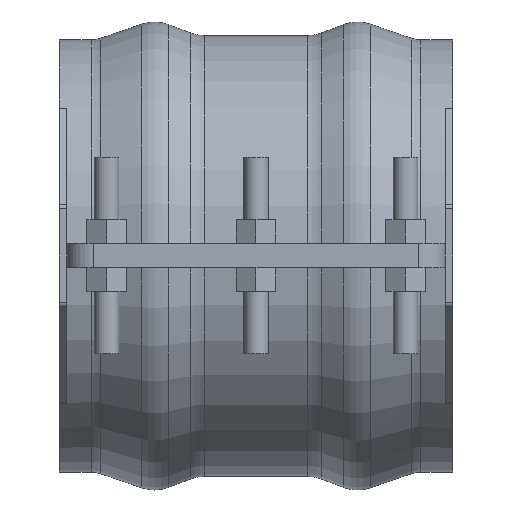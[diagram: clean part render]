
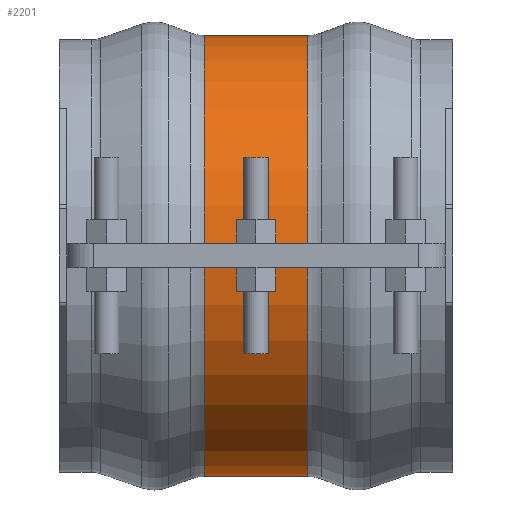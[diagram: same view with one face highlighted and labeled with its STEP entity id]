
A CAD part, top view. The second image highlights one B-rep face of the part: STEP entity #2201.
In plain terms, the highlighted cylindrical face has radius 142.454 mm (diameter 284.909 mm), a partial arc.
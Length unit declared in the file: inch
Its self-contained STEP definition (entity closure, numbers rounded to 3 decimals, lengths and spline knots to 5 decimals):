
#257=FACE_OUTER_BOUND('',#382,.T.);
#382=EDGE_LOOP('',(#1818,#1819,#1820,#1821));
#574=LINE('',#3580,#753);
#577=LINE('',#3657,#756);
#753=VECTOR('',#2893,0.3937);
#756=VECTOR('',#2904,0.3937);
#816=CIRCLE('',#2384,5.60844);
#817=CIRCLE('',#2386,5.60844);
#1017=VERTEX_POINT('',#3572);
#1018=VERTEX_POINT('',#3579);
#1029=VERTEX_POINT('',#3649);
#1030=VERTEX_POINT('',#3656);
#1290=EDGE_CURVE('',#1018,#1017,#574,.T.);
#1305=EDGE_CURVE('',#1030,#1029,#577,.T.);
#1316=EDGE_CURVE('',#1018,#1029,#816,.T.);
#1317=EDGE_CURVE('',#1017,#1030,#817,.T.);
#1818=ORIENTED_EDGE('',*,*,#1290,.T.);
#1819=ORIENTED_EDGE('',*,*,#1317,.T.);
#1820=ORIENTED_EDGE('',*,*,#1305,.T.);
#1821=ORIENTED_EDGE('',*,*,#1316,.F.);
#1994=CYLINDRICAL_SURFACE('',#2385,5.60844);
#2201=ADVANCED_FACE('',(#257),#1994,.T.);
#2384=AXIS2_PLACEMENT_3D('',#3701,#2925,#2926);
#2385=AXIS2_PLACEMENT_3D('',#3702,#2927,#2928);
#2386=AXIS2_PLACEMENT_3D('',#3703,#2929,#2930);
#2893=DIRECTION('',(-1.,0.,0.));
#2904=DIRECTION('',(1.,0.,0.));
#2925=DIRECTION('center_axis',(1.,0.,0.));
#2926=DIRECTION('ref_axis',(0.,0.,-1.));
#2927=DIRECTION('center_axis',(1.,0.,0.));
#2928=DIRECTION('ref_axis',(0.,0.,
-1.));
#2929=DIRECTION('center_axis',(1.,0.,0.));
#2930=DIRECTION('ref_axis',(0.,0.,-1.));
#3572=CARTESIAN_POINT('',(-1.31466,-0.3125,5.59973));
#3579=CARTESIAN_POINT('',(1.31466,-0.3125,5.59973));
#3580=CARTESIAN_POINT('',(0.,-0.3125,5.59973));
#3649=CARTESIAN_POINT('',(1.31466,0.3125,5.59973));
#3656=CARTESIAN_POINT('',(-1.31466,0.3125,5.59973));
#3657=CARTESIAN_POINT('',(0.,0.3125,5.59973));
#3701=CARTESIAN_POINT('Origin',(1.31466,0.,
0.));
#3702=CARTESIAN_POINT('Origin',(0.,0.,0.));
#3703=CARTESIAN_POINT('Origin',(-1.31466,0.,
0.));
